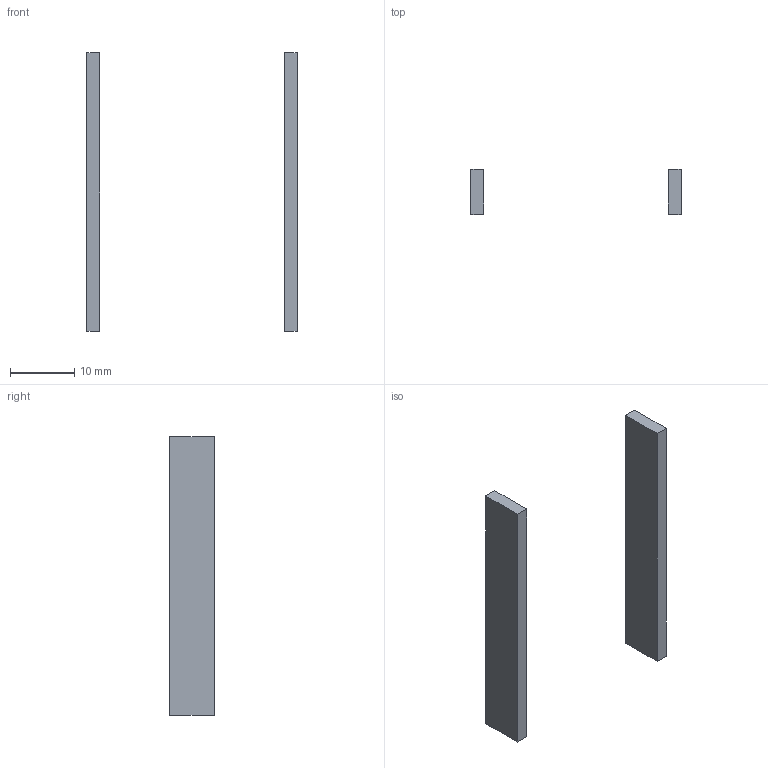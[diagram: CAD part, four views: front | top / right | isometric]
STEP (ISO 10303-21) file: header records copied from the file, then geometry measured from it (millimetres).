
FILE_DESCRIPTION(('FreeCAD Model'),'2;1');
FILE_NAME('Open CASCADE Shape Model','2026-10-31T13:49:49',('FreeCAD'),( 'FreeCAD'),'Open CASCADE STEP processor 7.8','FreeCAD','Unknown');
FILE_SCHEMA(('AUTOMOTIVE_DESIGN { 1 0 10303 214 1 1 1 1 }'));
Length unit declared in the file: millimetre
Products named in the file (1): Open CASCADE STEP translator 7.8 26
Bounding box: 32.8 x 7 x 43.5 mm (x, y, z)
Volume: 1218 mm3; surface area: 1622 mm2
Topology: 2 solids, 2 shells, 12 faces, 24 edges, 16 vertices
Faces by surface type: plane 12
Entity records: 316 total; most frequent: CARTESIAN_POINT 53, DIRECTION 50, ORIENTED_EDGE 48, EDGE_CURVE 24, LINE 24, VECTOR 24, VERTEX_POINT 16, AXIS2_PLACEMENT_3D 13
